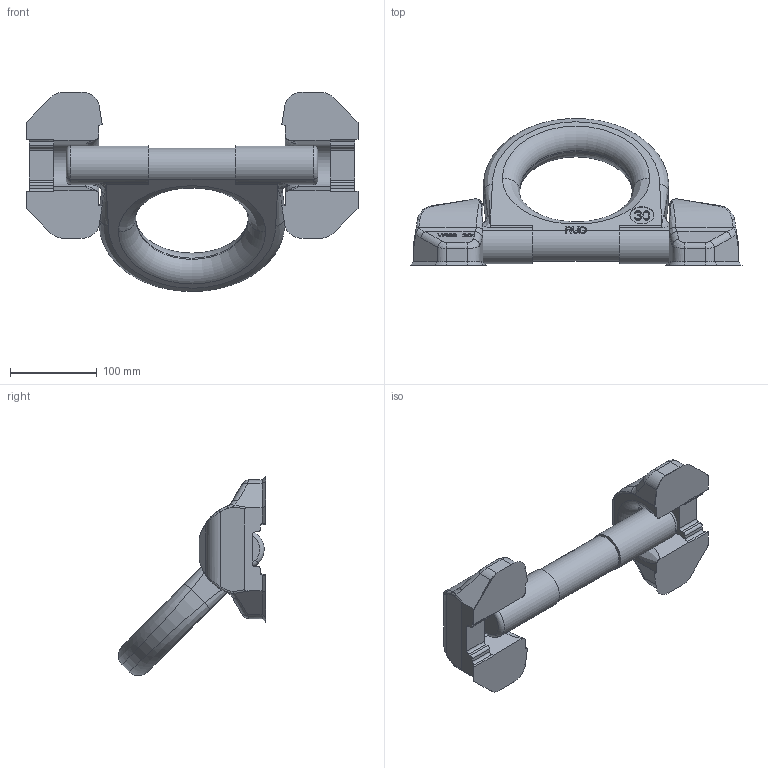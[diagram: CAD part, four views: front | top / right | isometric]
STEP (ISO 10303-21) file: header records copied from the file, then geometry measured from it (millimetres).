
FILE_DESCRIPTION((''),'2;1');
FILE_NAME('001-M06828-P-45_ASM','2008-10-28T',('Azubitbm'),('RAND'),'PRO/ENGINEER BY PARAMETRIC TECHNOLOGY CORPORATION, 2005030','PRO/ENGINEER BY PARAMETRIC TECHNOLOGY CORPORATION, 2005030','');
FILE_SCHEMA(('CONFIG_CONTROL_DESIGN'));
Length unit declared in the file: millimetre
Products named in the file (3): 001-M06480-RT1; 001-M06426-RT1; 001-M06828-P-45_ASM
Assembly tree (3 placements, depth 2):
  001-M06828-P-45_ASM
    001-M06480-RT1  x2
    001-M06426-RT1
Bounding box: 383 x 169.6 x 229.6 mm (x, y, z)
Volume: 2131132.2 mm3; surface area: 196322.6 mm2
Topology: 3 solids, 3 shells, 953 faces, 2636 edges, 1714 vertices
Faces by surface type: plane 789, bspline 78, cylinder 70, cone 8, torus 8
Entity records: 22597 total; most frequent: CARTESIAN_POINT 7674, ORIENTED_EDGE 3290, DIRECTION 2747, EDGE_CURVE 1645, VECTOR 1399, LINE 1399, VERTEX_POINT 1072, AXIS2_PLACEMENT_3D 674
